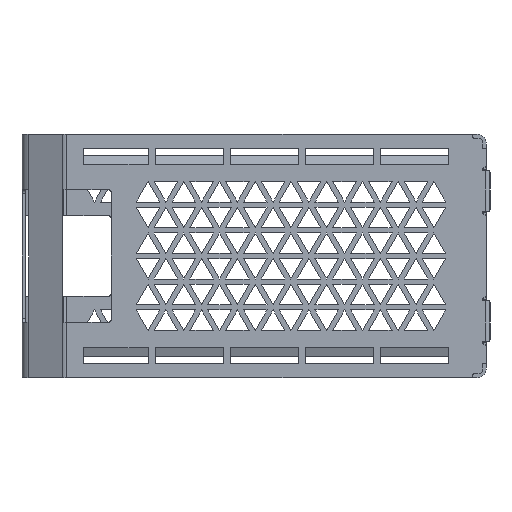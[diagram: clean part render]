
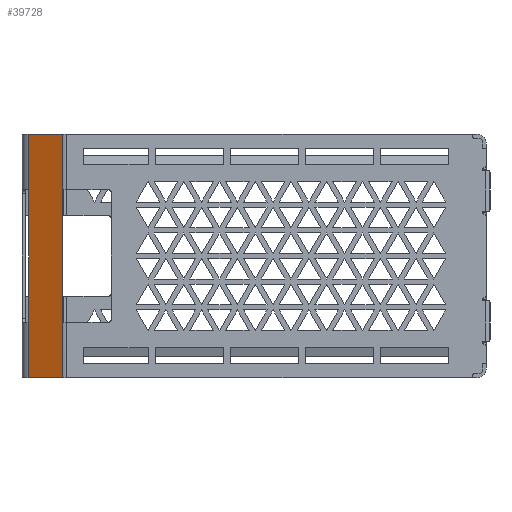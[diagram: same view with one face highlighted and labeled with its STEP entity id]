
A CAD part, left-side view. The second image highlights one B-rep face of the part: STEP entity #39728.
In plain terms, the highlighted planar face has unit normal (-0.905, 0.426, 0).
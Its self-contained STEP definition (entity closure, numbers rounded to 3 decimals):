
#193 = DIRECTION ( 'NONE',  ( 0., 0., -1. ) ) ;
#1164 = FACE_OUTER_BOUND ( 'NONE', #19632, .T. ) ;
#1399 = VECTOR ( 'NONE', #39126, 1000. ) ;
#1579 = DIRECTION ( 'NONE',  ( 0., 0., 1. ) ) ;
#2132 = CARTESIAN_POINT ( 'NONE',  ( 337.748, 50.378, -40. ) ) ;
#3257 = CARTESIAN_POINT ( 'NONE',  ( 341.695, 58.758, -19.9 ) ) ;
#3646 = LINE ( 'NONE', #22546, #36437 ) ;
#3818 = EDGE_CURVE ( 'NONE', #26347, #31129, #33210, .T. ) ;
#6678 = LINE ( 'NONE', #29545, #22379 ) ;
#7834 = CARTESIAN_POINT ( 'NONE',  ( 400.134, 182.82, 6.3 ) ) ;
#7852 = ORIENTED_EDGE ( 'NONE', *, *, #38272, .T. ) ;
#9253 = VECTOR ( 'NONE', #20654, 1000. ) ;
#9777 = CARTESIAN_POINT ( 'NONE',  ( 339.949, 55.051, 20. ) ) ;
#9829 = EDGE_CURVE ( 'NONE', #29138, #39805, #15236, .T. ) ;
#10085 = EDGE_CURVE ( 'NONE', #26347, #39805, #36584, .T. ) ;
#10781 = LINE ( 'NONE', #9777, #18838 ) ;
#10830 = CARTESIAN_POINT ( 'NONE',  ( 337.748, 50.378, -19.9 ) ) ;
#10968 = ORIENTED_EDGE ( 'NONE', *, *, #28798, .T. ) ;
#11631 = CARTESIAN_POINT ( 'NONE',  ( 341.695, 58.758, 20. ) ) ;
#13347 = EDGE_CURVE ( 'NONE', #20077, #28709, #30327, .T. ) ;
#13359 = CARTESIAN_POINT ( 'NONE',  ( 339.949, 55.051, -19.9 ) ) ;
#14678 = ORIENTED_EDGE ( 'NONE', *, *, #9829, .T. ) ;
#15114 = AXIS2_PLACEMENT_3D ( 'NONE', #13359, #19849, #16922 ) ;
#15236 = LINE ( 'NONE', #3257, #17950 ) ;
#16582 = VERTEX_POINT ( 'NONE', #35022 ) ;
#16922 = DIRECTION ( 'NONE',  ( 0., 0., 1. ) ) ;
#17546 = CARTESIAN_POINT ( 'NONE',  ( 341.695, 58.758, 6.3 ) ) ;
#17669 = ORIENTED_EDGE ( 'NONE', *, *, #13347, .T. ) ;
#17708 = ORIENTED_EDGE ( 'NONE', *, *, #10085, .F. ) ;
#17950 = VECTOR ( 'NONE', #26329, 1000. ) ;
#18477 = VECTOR ( 'NONE', #1579, 1000. ) ;
#18838 = VECTOR ( 'NONE', #20010, 1000. ) ;
#19632 = EDGE_LOOP ( 'NONE', ( #17708, #26131, #7852, #26802, #20580, #17669, #10968, #14678 ) ) ;
#19849 = DIRECTION ( 'NONE',  ( -0.905, 0.426, 0. ) ) ;
#20010 = DIRECTION ( 'NONE',  ( 0.426, 0.905, 0. ) ) ;
#20077 = VERTEX_POINT ( 'NONE', #2132 ) ;
#20580 = ORIENTED_EDGE ( 'NONE', *, *, #29099, .F. ) ;
#20654 = DIRECTION ( 'NONE',  ( 0.426, 0.905, 0. ) ) ;
#22110 = CARTESIAN_POINT ( 'NONE',  ( 341.641, 58.643, -26.3 ) ) ;
#22379 = VECTOR ( 'NONE', #193, 1000. ) ;
#22546 = CARTESIAN_POINT ( 'NONE',  ( 339.949, 55.051, -26.3 ) ) ;
#26131 = ORIENTED_EDGE ( 'NONE', *, *, #3818, .T. ) ;
#26329 = DIRECTION ( 'NONE',  ( 0., 0., -1. ) ) ;
#26347 = VERTEX_POINT ( 'NONE', #29527 ) ;
#26802 = ORIENTED_EDGE ( 'NONE', *, *, #33018, .T. ) ;
#27166 = VECTOR ( 'NONE', #29661, 1000. ) ;
#27352 = VERTEX_POINT ( 'NONE', #38842 ) ;
#28709 = VERTEX_POINT ( 'NONE', #36163 ) ;
#28798 = EDGE_CURVE ( 'NONE', #28709, #29138, #10781, .T. ) ;
#29099 = EDGE_CURVE ( 'NONE', #20077, #27352, #29277, .T. ) ;
#29138 = VERTEX_POINT ( 'NONE', #11631 ) ;
#29277 = LINE ( 'NONE', #29494, #1399 ) ;
#29494 = CARTESIAN_POINT ( 'NONE',  ( 335.508, 45.622, -40. ) ) ;
#29527 = CARTESIAN_POINT ( 'NONE',  ( 341.641, 58.643, 6.3 ) ) ;
#29545 = CARTESIAN_POINT ( 'NONE',  ( 341.695, 58.758, -19.9 ) ) ;
#29661 = DIRECTION ( 'NONE',  ( 0., 0., -1. ) ) ;
#30066 = CARTESIAN_POINT ( 'NONE',  ( 341.641, 58.643, -19.9 ) ) ;
#30327 = LINE ( 'NONE', #10830, #18477 ) ;
#31129 = VERTEX_POINT ( 'NONE', #22110 ) ;
#33018 = EDGE_CURVE ( 'NONE', #16582, #27352, #6678, .T. ) ;
#33210 = LINE ( 'NONE', #30066, #27166 ) ;
#35022 = CARTESIAN_POINT ( 'NONE',  ( 341.695, 58.758, -26.3 ) ) ;
#36163 = CARTESIAN_POINT ( 'NONE',  ( 337.748, 50.378, 20. ) ) ;
#36418 = PLANE ( 'NONE',  #15114 ) ;
#36437 = VECTOR ( 'NONE', #38691, 1000. ) ;
#36584 = LINE ( 'NONE', #7834, #9253 ) ;
#38272 = EDGE_CURVE ( 'NONE', #31129, #16582, #3646, .T. ) ;
#38691 = DIRECTION ( 'NONE',  ( 0.426, 0.905, 0. ) ) ;
#38842 = CARTESIAN_POINT ( 'NONE',  ( 341.695, 58.758, -40. ) ) ;
#39126 = DIRECTION ( 'NONE',  ( 0.426, 0.905, 0. ) ) ;
#39728 = ADVANCED_FACE ( 'NONE', ( #1164 ), #36418, .T. ) ;
#39805 = VERTEX_POINT ( 'NONE', #17546 ) ;
